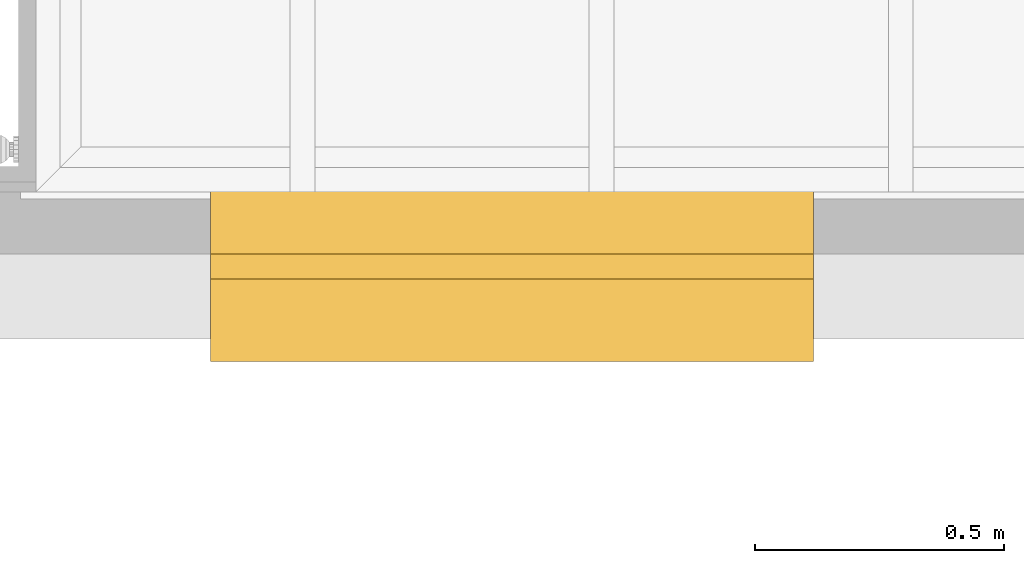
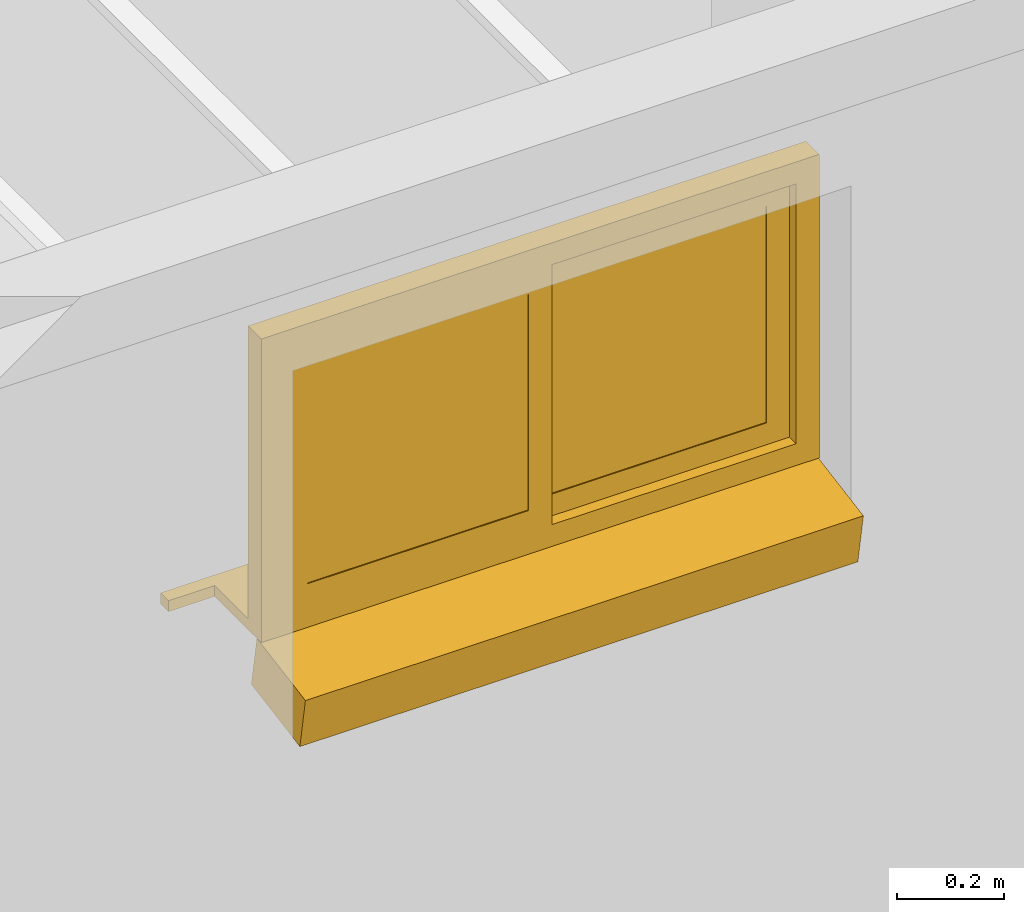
# One storey, part 8 of 15: 1 window.
"""IFC2X3 building model written with IfcOpenShell, lengths in millimetres."""

from ifc_helpers import new_model, entity, si_unit, converted_unit, money_unit, direction, frame, origin_with_axes, place, context, subcontext, project, spatial, faceted_brep, source, transform, mapped, material, material_list, type_object, element, save


model = new_model("IFC2X3")

# Units and contexts
model_context = context("Model", 3, precision=1e-05, world=origin_with_axes(), true_north=direction((0.0, 1.0)))
body_context = subcontext(model_context, "Body", "Model", "MODEL_VIEW")
ifc_project = project(units=[si_unit("LENGTHUNIT", "METRE", prefix="MILLI"), si_unit("AREAUNIT", "SQUARE_METRE"), si_unit("VOLUMEUNIT", "CUBIC_METRE"), converted_unit("PLANEANGLEUNIT", "DEGREE", entity("IfcPlaneAngleMeasure", 0.0174532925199), si_unit("PLANEANGLEUNIT", "RADIAN"), dimensions=[0, 0, 0, 0, 0, 0, 0]), si_unit("SOLIDANGLEUNIT", "STERADIAN"), money_unit("AUD"), si_unit("TIMEUNIT", "SECOND"), si_unit("MASSUNIT", "GRAM"), si_unit("THERMODYNAMICTEMPERATUREUNIT", "DEGREE_CELSIUS"), si_unit("LUMINOUSINTENSITYUNIT", "LUMEN")], contexts=[model_context])

# Site, building, storey
site_placement = place(None, origin_with_axes())
site = spatial("IfcSite", under=ifc_project, at=site_placement, Name="Lot 1. East Hills", CompositionType="ELEMENT")
building_placement = place(site_placement, origin_with_axes())
building = spatial("IfcBuilding", under=site, at=building_placement, Name="Proposed Units 7 & 8", CompositionType="ELEMENT")
storey_placement = place(building_placement, frame((0.0, 0.0, 3202.0), z_axis=(0.0, 0.0, 1.0), x_axis=(1.0, 0.0, 0.0)))
storey = spatial("IfcBuildingStorey", under=building, at=storey_placement, Name="Ground", CompositionType="ELEMENT", Elevation=3202.0)

# Window
ifc_material_1 = material(Name="Empty Fill")
ifc_material_2 = material(Name="air space")
ifc_material_list = material_list([ifc_material_1, ifc_material_2, ifc_material_1, ifc_material_1, ifc_material_1, ifc_material_1, ifc_material_1, ifc_material_1, ifc_material_1, ifc_material_1])
window_style = type_object("IfcWindowStyle", Name="W2 Horizontal Slide 11", ConstructionType="NOTDEFINED", OperationType="DOUBLE_PANEL_VERTICAL", ParameterTakesPrecedence=False, Sizeable=False)
shared_shape = source(origin_with_axes(), body_context, "Body", "Brep", [
    faceted_brep([(-605.0, -16.6666666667, 0.0), (605.0, -16.6666666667, 0.0), (605.0, 165.83778132, -32.1804582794), (-605.0, 165.83778132, -32.1804582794), (-605.0, -37.5044479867, -118.176930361), (605.0, -37.5044479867, -118.176930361), (605.0, 145.0, -150.357388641), (-605.0, 145.0, -150.357388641)], [[[0, 1, 2, 3]], [[4, 5, 1, 0]], [[1, 5, 6, 2]], [[3, 2, 6, 7]], [[0, 3, 7, 4]], [[7, 6, 5, 4]]]),
    faceted_brep([(605.0, -50.0, 0.0), (605.0, -50.0, 25.0), (605.0, -174.999998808, 25.0), (605.0, -174.999998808, 0.0), (-605.0, -50.0, 0.0), (-605.0, -50.0, 25.0), (-605.0, -174.999998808, 25.0), (-705.0, -174.999998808, 25.0), (-705.0, -204.999998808, 25.0), (705.0, -204.999998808, 25.0), (705.0, -174.999998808, 25.0), (705.0, -174.999998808, 0.0), (705.0, -204.999998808, 0.0), (-705.0, -204.999998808, 0.0), (-705.0, -174.999998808, 0.0), (-605.0, -174.999998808, 0.0)], [[[0, 1, 2, 3]], [[4, 5, 1, 0]], [[1, 5, 6, 7, 8, 9, 10, 2]], [[3, 2, 10, 11]], [[0, 3, 11, 12, 13, 14, 15, 4]], [[15, 6, 5, 4]], [[14, 7, 6, 15]], [[13, 8, 7, 14]], [[12, 9, 8, 13]], [[11, 10, 9, 12]]]),
    faceted_brep([(-555.0, -50.0, 50.0), (-555.0, 0.0, 50.0), (-555.0, 0.0, 646.0), (-555.0, -50.0, 646.0), (-605.0, -50.0, 50.0), (-605.0, 0.0, 50.0), (-605.0, 0.0, 646.0), (-605.0, -50.0, 646.0)], [[[0, 1, 2, 3]], [[4, 5, 1, 0]], [[1, 5, 6, 2]], [[3, 2, 6, 7]], [[0, 3, 7, 4]], [[7, 6, 5, 4]]]),
    faceted_brep([(605.0, -50.0, 50.0), (605.0, 0.0, 50.0), (605.0, 0.0, 646.0), (605.0, -50.0, 646.0), (555.0, -50.0, 50.0), (555.0, 0.0, 50.0), (555.0, 0.0, 646.0), (555.0, -50.0, 646.0)], [[[0, 1, 2, 3]], [[4, 5, 1, 0]], [[1, 5, 6, 2]], [[3, 2, 6, 7]], [[0, 3, 7, 4]], [[7, 6, 5, 4]]]),
    faceted_brep([(-605.0, -50.0, 0.0), (-605.0, 0.0, 0.0), (605.0, 0.0, 0.0), (605.0, -50.0, 0.0), (-605.0, -50.0, 50.0), (-605.0, 0.0, 50.0), (-555.0, 0.0, 50.0), (555.0, 0.0, 50.0), (605.0, 0.0, 50.0), (605.0, -50.0, 50.0), (555.0, -50.0, 50.0), (-555.0, -50.0, 50.0)], [[[0, 1, 2, 3]], [[4, 5, 1, 0]], [[1, 5, 6, 7, 8, 2]], [[3, 2, 8, 9]], [[0, 3, 9, 10, 11, 4]], [[11, 6, 5, 4]], [[10, 7, 6, 11]], [[9, 8, 7, 10]]]),
    faceted_brep([(-605.0, -50.0, 646.0), (-605.0, 0.0, 646.0), (-555.0, 0.0, 646.0), (-555.0, -50.0, 646.0), (-605.0, -50.0, 696.0), (-605.0, 0.0, 696.0), (605.0, 0.0, 696.0), (605.0, 0.0, 646.0), (555.0, 0.0, 646.0), (555.0, -50.0, 646.0), (605.0, -50.0, 646.0), (605.0, -50.0, 696.0)], [[[0, 1, 2, 3]], [[4, 5, 1, 0]], [[1, 5, 6, 7, 8, 2]], [[3, 2, 8, 9]], [[0, 3, 9, 10, 11, 4]], [[11, 6, 5, 4]], [[10, 7, 6, 11]], [[9, 8, 7, 10]]]),
    faceted_brep([(-505.0, -50.0, 100.0), (-505.0, -25.0, 100.0), (-505.0, -25.0, 596.0), (-505.0, -50.0, 596.0), (-555.0, -50.0, 100.0), (-555.0, -25.0, 100.0), (-555.0, -25.0, 596.0), (-555.0, -50.0, 596.0)], [[[0, 1, 2, 3]], [[4, 5, 1, 0]], [[1, 5, 6, 2]], [[3, 2, 6, 7]], [[0, 3, 7, 4]], [[7, 6, 5, 4]]]),
    faceted_brep([(25.0, -50.0, 100.0), (25.0, -25.0, 100.0), (25.0, -25.0, 596.0), (25.0, -50.0, 596.0), (-25.0, -50.0, 100.0), (-25.0, -25.0, 100.0), (-25.0, -25.0, 596.0), (-25.0, -50.0, 596.0)], [[[0, 1, 2, 3]], [[4, 5, 1, 0]], [[1, 5, 6, 2]], [[3, 2, 6, 7]], [[0, 3, 7, 4]], [[7, 6, 5, 4]]]),
    faceted_brep([(25.0, -50.0, 50.0), (25.0, -25.0, 50.0), (25.0, -25.0, 100.0), (25.0, -50.0, 100.0), (-555.0, -50.0, 50.0), (-555.0, -25.0, 50.0), (-555.0, -25.0, 100.0), (-505.0, -25.0, 100.0), (-25.0, -25.0, 100.0), (-25.0, -50.0, 100.0), (-505.0, -50.0, 100.0), (-555.0, -50.0, 100.0)], [[[0, 1, 2, 3]], [[4, 5, 1, 0]], [[1, 5, 6, 7, 8, 2]], [[3, 2, 8, 9]], [[0, 3, 9, 10, 11, 4]], [[11, 6, 5, 4]], [[10, 7, 6, 11]], [[9, 8, 7, 10]]]),
    faceted_brep([(-555.0, -50.0, 646.0), (-555.0, -25.0, 646.0), (-555.0, -25.0, 596.0), (-555.0, -50.0, 596.0), (25.0, -50.0, 646.0), (25.0, -25.0, 646.0), (25.0, -25.0, 596.0), (-25.0, -25.0, 596.0), (-505.0, -25.0, 596.0), (-505.0, -50.0, 596.0), (-25.0, -50.0, 596.0), (25.0, -50.0, 596.0)], [[[0, 1, 2, 3]], [[4, 5, 1, 0]], [[1, 5, 6, 7, 8, 2]], [[3, 2, 8, 9]], [[0, 3, 9, 10, 11, 4]], [[11, 6, 5, 4]], [[10, 7, 6, 11]], [[9, 8, 7, 10]]]),
    faceted_brep([(-505.0, -47.5, 100.0), (-505.0, -27.5, 100.0), (-25.0, -27.5, 100.0), (-25.0, -47.5, 100.0), (-505.0, -47.5, 596.0), (-505.0, -27.5, 596.0), (-25.0, -27.5, 596.0), (-25.0, -47.5, 596.0)], [[[0, 1, 2, 3]], [[4, 5, 1, 0]], [[1, 5, 6, 2]], [[3, 2, 6, 7]], [[0, 3, 7, 4]], [[7, 6, 5, 4]]]),
    faceted_brep([(25.0, -25.0, 100.0), (25.0, 0.0, 100.0), (25.0, 0.0, 596.0), (25.0, -25.0, 596.0), (-25.0, -25.0, 100.0), (-25.0, 0.0, 100.0), (-25.0, 0.0, 596.0), (-25.0, -25.0, 596.0)], [[[0, 1, 2, 3]], [[4, 5, 1, 0]], [[1, 5, 6, 2]], [[3, 2, 6, 7]], [[0, 3, 7, 4]], [[7, 6, 5, 4]]]),
    faceted_brep([(555.0, -25.0, 100.0), (555.0, 0.0, 100.0), (555.0, 0.0, 596.0), (555.0, -25.0, 596.0), (505.0, -25.0, 100.0), (505.0, 0.0, 100.0), (505.0, 0.0, 596.0), (505.0, -25.0, 596.0)], [[[0, 1, 2, 3]], [[4, 5, 1, 0]], [[1, 5, 6, 2]], [[3, 2, 6, 7]], [[0, 3, 7, 4]], [[7, 6, 5, 4]]]),
    faceted_brep([(555.0, -25.0, 50.0), (555.0, 0.0, 50.0), (555.0, 0.0, 100.0), (555.0, -25.0, 100.0), (-25.0, -25.0, 50.0), (-25.0, 0.0, 50.0), (-25.0, 0.0, 100.0), (25.0, 0.0, 100.0), (505.0, 0.0, 100.0), (505.0, -25.0, 100.0), (25.0, -25.0, 100.0), (-25.0, -25.0, 100.0)], [[[0, 1, 2, 3]], [[4, 5, 1, 0]], [[1, 5, 6, 7, 8, 2]], [[3, 2, 8, 9]], [[0, 3, 9, 10, 11, 4]], [[11, 6, 5, 4]], [[10, 7, 6, 11]], [[9, 8, 7, 10]]]),
    faceted_brep([(-25.0, -25.0, 646.0), (-25.0, 0.0, 646.0), (-25.0, 0.0, 596.0), (-25.0, -25.0, 596.0), (555.0, -25.0, 646.0), (555.0, 0.0, 646.0), (555.0, 0.0, 596.0), (505.0, 0.0, 596.0), (25.0, 0.0, 596.0), (25.0, -25.0, 596.0), (505.0, -25.0, 596.0), (555.0, -25.0, 596.0)], [[[0, 1, 2, 3]], [[4, 5, 1, 0]], [[1, 5, 6, 7, 8, 2]], [[3, 2, 8, 9]], [[0, 3, 9, 10, 11, 4]], [[11, 6, 5, 4]], [[10, 7, 6, 11]], [[9, 8, 7, 10]]]),
    faceted_brep([(25.0, -22.5, 100.0), (25.0, -2.5, 100.0), (505.0, -2.5, 100.0), (505.0, -22.5, 100.0), (25.0, -22.5, 596.0), (25.0, -2.5, 596.0), (505.0, -2.5, 596.0), (505.0, -22.5, 596.0)], [[[0, 1, 2, 3]], [[4, 5, 1, 0]], [[1, 5, 6, 2]], [[3, 2, 6, 7]], [[0, 3, 7, 4]], [[7, 6, 5, 4]]]),
])
window_placement = place(storey_placement, frame((13540.1182137, -2.0, 1629.0), z_axis=(0.0, 0.0, 1.0), x_axis=(1.0, 0.0, 0.0)))
element("IfcWindow", 1, at=window_placement, inside=storey, type_object=window_style, material=ifc_material_list, Name="W007 W2 Horizontal Slide 11 1.21 x 0.696 Window", OverallHeight=696.0, OverallWidth=1210.0, context=body_context, shape_type="MappedRepresentation", body=[
    mapped(shared_shape, transform((605.0, 120.0, 0.0), x_axis=(-1.0, 0.0, 0.0), y_axis=(0.0, -1.0, 0.0), z_axis=(0.0, 0.0, 1.0))),
])

save(model, "model.ifc")
